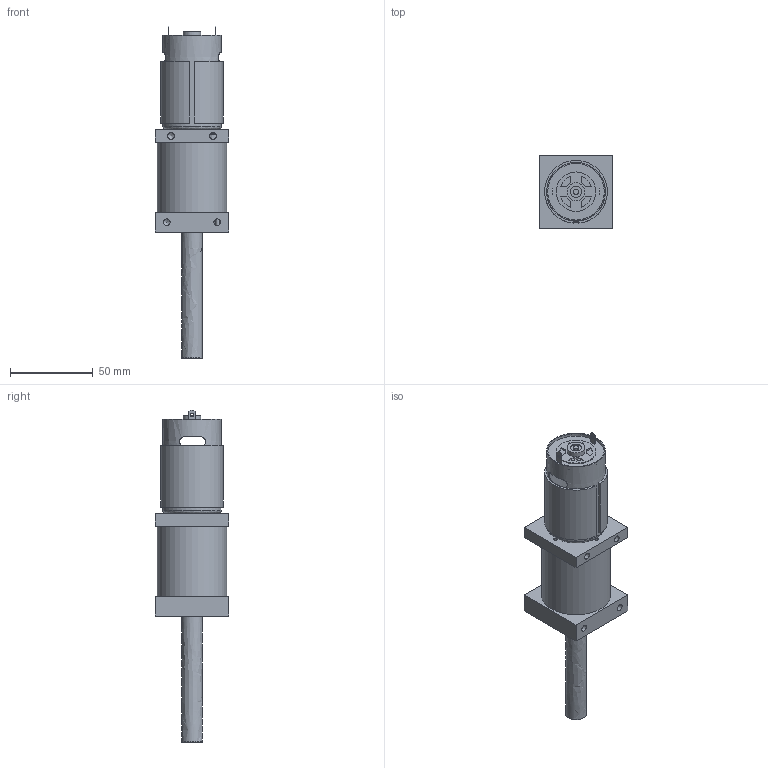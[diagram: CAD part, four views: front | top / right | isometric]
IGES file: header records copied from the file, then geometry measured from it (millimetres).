
Global section: file name: No Iges File Name specified; native system: AutoDesk Inventor R5.0; preprocessor: AutoDesk Inventor Iges Exporter R5.0; author: No Author specified; organization: No Organization specified; date: 20070115.071603; units: inch
Bounding box: 44.45 x 44.45 x 200.88 mm (x, y, z)
Surface area: 50313.5 mm2 (no closed solid volume)
Topology: 0 solids, 0 shells, 210 faces, 906 edges, 816 vertices
Faces by surface type: plane 85, revolution 73, bspline 52
